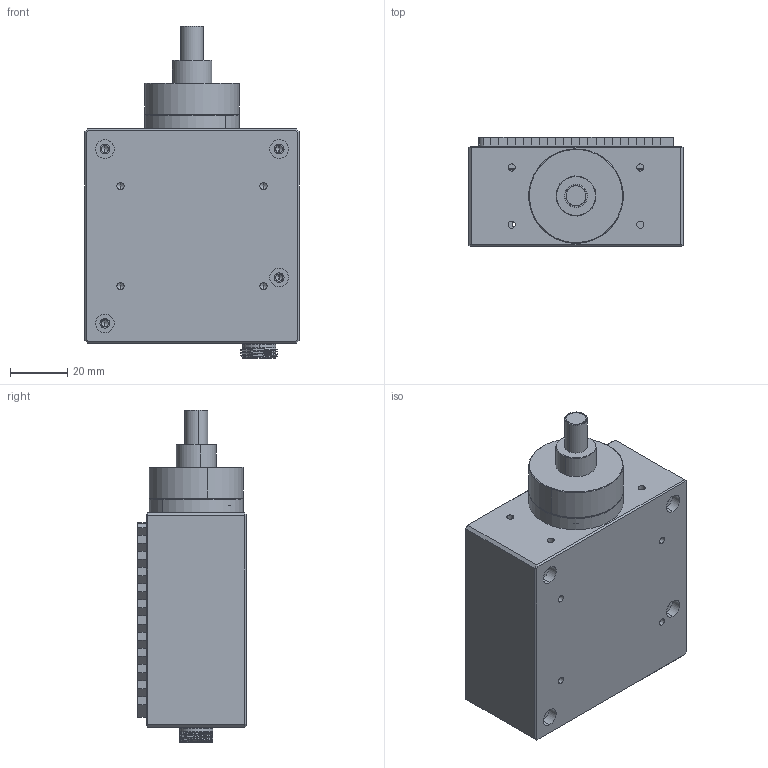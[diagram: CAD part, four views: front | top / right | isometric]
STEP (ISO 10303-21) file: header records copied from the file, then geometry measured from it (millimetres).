
FILE_DESCRIPTION (( 'STEP AP203' ), '1' );
FILE_NAME ('ILS-RGB20A-COA.STEP', '2024-01-30T02:27:07', ( '' ), ( '' ), 'SwSTEP 2.0', 'SolidWorks 2024', '' );
FILE_SCHEMA (( 'CONFIG_CONTROL_DESIGN' ));
Length unit declared in the file: millimetre
Products named in the file (9): GX-12_4_pin; ROD_LENS; ID-0033-M011A; LENS_ASSY; ID-0033-M009A; LENS_MODULE_ASSY; ID-0033-M001A; ID-0033-M002A; ILS-RGB20A-COA
Assembly tree (8 placements, depth 3):
  ILS-RGB20A-COA
    LENS_MODULE_ASSY
      ID-0033-M011A
      ROD_LENS
    LENS_ASSY
      ID-0033-M009A
    ID-0033-M001A
    GX-12_4_pin
    ID-0033-M002A
Bounding box: 75 x 38 x 116.1 mm (x, y, z)
Volume: 98995.8 mm3; surface area: 62157.1 mm2
Topology: 6 solids, 6 shells, 801 faces, 2061 edges, 1253 vertices
Faces by surface type: plane 285, cylinder 279, bspline 102, cone 89, torus 24, sphere 22
Entity records: 36190 total; most frequent: CARTESIAN_POINT 16634, ORIENTED_EDGE 3962, DIRECTION 3679, EDGE_CURVE 1981, AXIS2_PLACEMENT_3D 1372, VERTEX_POINT 1253, EDGE_LOOP 936, VECTOR 935
